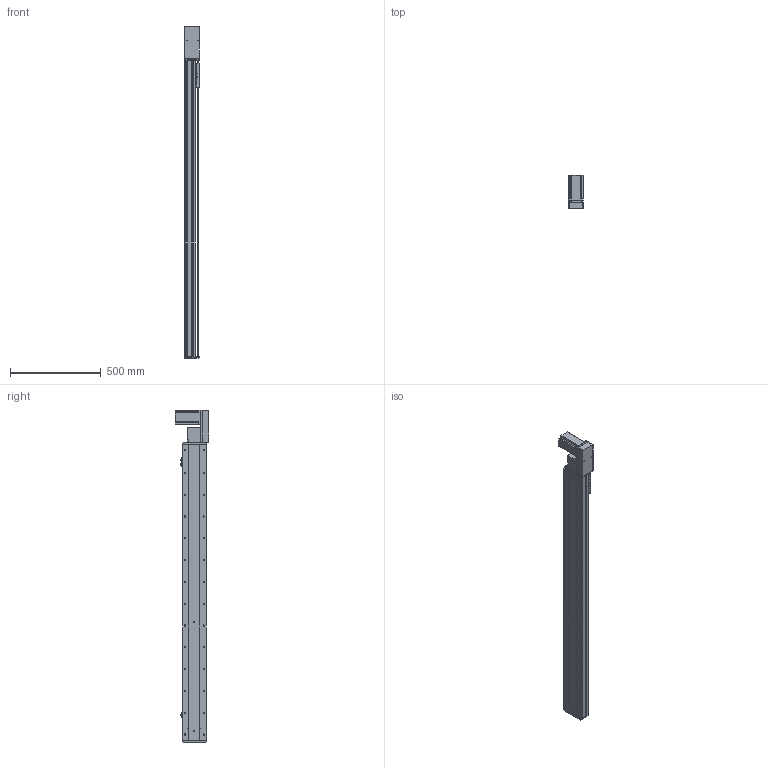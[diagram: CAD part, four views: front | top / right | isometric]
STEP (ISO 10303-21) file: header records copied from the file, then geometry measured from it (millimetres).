
FILE_DESCRIPTION (( 'STEP AP214' ), '1' );
FILE_NAME ('KSD130B-S1400-MLB-CM.STEP', '2019-09-19T07:52:13', ( '微软用户' ), ( '微软中国' ), 'SwSTEP 2.0', 'SolidWorks 2014', '' );
FILE_SCHEMA (( 'AUTOMOTIVE_DESIGN' ));
Length unit declared in the file: millimetre
Products named in the file (12): 台达ECMA－C20807AS伺服电机; 130宽模组保护罩上下左右折-同步带; 130宽模组马达安装板连板左右折同步带; 覜茼え100遵圉猾敕; U倰嫖萇EEㄜSX672; 130宽盖板半封闭同步带-1400行程; 130宽马达安装板同步带左-改; 130宽马达安装板同步带半封闭; 130宽同步带安装座半封闭; 130宽端盖同步带半封闭; 130宽底板半封闭同步带-1400行程; KSD130B-S1400-MLB-CM
Assembly tree (13 placements, depth 2):
  KSD130B-S1400-MLB-CM
    130宽底板半封闭同步带-1400行程
    130宽端盖同步带半封闭
    130宽同步带安装座半封闭
    130宽马达安装板同步带半封闭
    130宽马达安装板同步带左-改
    130宽盖板半封闭同步带-1400行程
    U倰嫖萇EEㄜSX672  x3
    覜茼え100遵圉猾敕
    130宽模组马达安装板连板左右折同步带
    130宽模组保护罩上下左右折-同步带
    台达ECMA－C20807AS伺服电机
Bounding box: 82.5 x 184.8 x 1827 mm (x, y, z)
Volume: 6067449.7 mm3; surface area: 1692980.3 mm2
Topology: 14 solids, 14 shells, 1637 faces, 4721 edges, 3001 vertices
Faces by surface type: cylinder 796, plane 638, cone 203
Entity records: 54899 total; most frequent: CARTESIAN_POINT 10422, DIRECTION 8307, ORIENTED_EDGE 8022, EDGE_CURVE 4011, AXIS2_PLACEMENT_3D 3046, VERTEX_POINT 2625, VECTOR 2215, LINE 2215
